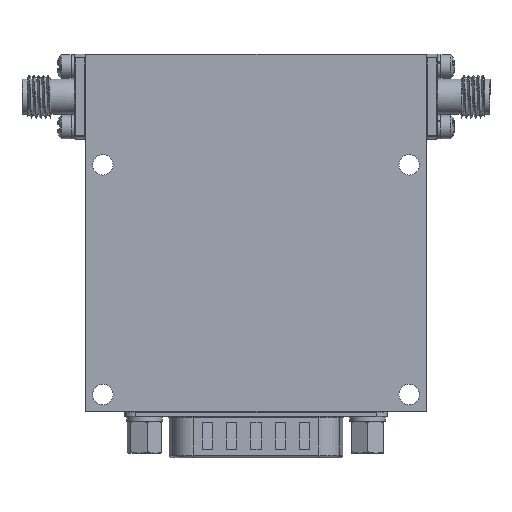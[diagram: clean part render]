
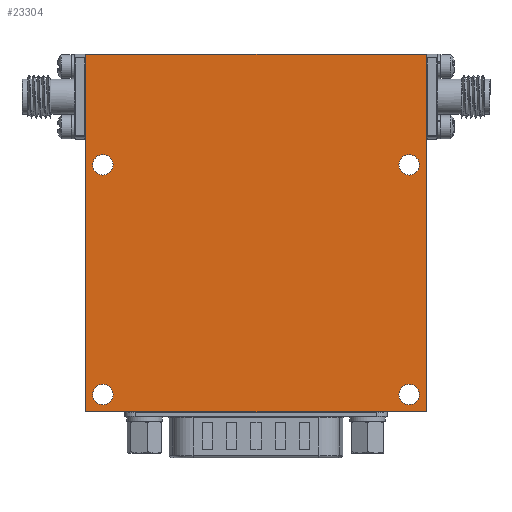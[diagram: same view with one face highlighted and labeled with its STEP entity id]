
A CAD part, front view. The second image highlights one B-rep face of the part: STEP entity #23304.
In plain terms, the highlighted planar face has unit normal (0, -1, 0).
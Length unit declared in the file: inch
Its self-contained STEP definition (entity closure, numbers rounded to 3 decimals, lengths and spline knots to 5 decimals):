
#541 = DIRECTION ( 'NONE',  ( 0., 1., 0. ) ) ;
#969 = VECTOR ( 'NONE', #38814, 39.37008 ) ;
#1223 = CARTESIAN_POINT ( 'NONE',  ( -0.9, 0., -0.95 ) ) ;
#1747 = DIRECTION ( 'NONE',  ( 0., 0., 1. ) ) ;
#1944 = CARTESIAN_POINT ( 'NONE',  ( 0.9, 0., -0.95 ) ) ;
#2295 = FACE_BOUND ( 'NONE', #17054, .T. ) ;
#3096 = ORIENTED_EDGE ( 'NONE', *, *, #38306, .T. ) ;
#3168 = DIRECTION ( 'NONE',  ( 0., 1., 0. ) ) ;
#3214 = CARTESIAN_POINT ( 'NONE',  ( 0., 0., 0. ) ) ;
#4188 = DIRECTION ( 'NONE',  ( 0., 0., 1. ) ) ;
#4549 = AXIS2_PLACEMENT_3D ( 'NONE', #3214, #34537, #24229 ) ;
#4962 = CARTESIAN_POINT ( 'NONE',  ( -1., 0., 1.05 ) ) ;
#6265 = ORIENTED_EDGE ( 'NONE', *, *, #32292, .T. ) ;
#7013 = CARTESIAN_POINT ( 'NONE',  ( -1., 0., -1.05 ) ) ;
#7616 = EDGE_CURVE ( 'NONE', #15040, #25627, #8135, .T. ) ;
#8135 = LINE ( 'NONE', #4962, #26128 ) ;
#8382 = ORIENTED_EDGE ( 'NONE', *, *, #15532, .T. ) ;
#9475 = CARTESIAN_POINT ( 'NONE',  ( -1., 0., 1.05 ) ) ;
#9553 = EDGE_CURVE ( 'NONE', #44248, #15040, #24415, .T. ) ;
#10208 = VERTEX_POINT ( 'NONE', #36827 ) ;
#11144 = VERTEX_POINT ( 'NONE', #35637 ) ;
#12476 = CIRCLE ( 'NONE', #37383, 0.06 ) ;
#13230 = FACE_BOUND ( 'NONE', #29105, .T. ) ;
#13586 = CARTESIAN_POINT ( 'NONE',  ( 0.9, 0., -0.89 ) ) ;
#14363 = CARTESIAN_POINT ( 'NONE',  ( 1., 0., 1.05 ) ) ;
#15040 = VERTEX_POINT ( 'NONE', #39771 ) ;
#15120 = LINE ( 'NONE', #15571, #35953 ) ;
#15532 = EDGE_CURVE ( 'NONE', #29235, #29235, #33544, .T. ) ;
#15571 = CARTESIAN_POINT ( 'NONE',  ( -1., 0., 1.05 ) ) ;
#15860 = DIRECTION ( 'NONE',  ( 0., 1., 0. ) ) ;
#16578 = ORIENTED_EDGE ( 'NONE', *, *, #9553, .F. ) ;
#17054 = EDGE_LOOP ( 'NONE', ( #8382 ) ) ;
#17314 = EDGE_CURVE ( 'NONE', #10208, #44248, #27690, .T. ) ;
#17579 = ORIENTED_EDGE ( 'NONE', *, *, #18283, .T. ) ;
#17773 = ORIENTED_EDGE ( 'NONE', *, *, #17314, .F. ) ;
#18283 = EDGE_CURVE ( 'NONE', #11144, #11144, #12476, .T. ) ;
#18533 = CARTESIAN_POINT ( 'NONE',  ( 1., 0., -1.05 ) ) ;
#18996 = EDGE_CURVE ( 'NONE', #25627, #10208, #15120, .T. ) ;
#19437 = PLANE ( 'NONE',  #4549 ) ;
#21574 = DIRECTION ( 'NONE',  ( 0., 0., 1. ) ) ;
#23013 = CARTESIAN_POINT ( 'NONE',  ( -0.9, 0., -0.89 ) ) ;
#23304 = ADVANCED_FACE ( 'NONE', ( #33653, #13230, #36860, #2295, #23763 ), #19437, .T. ) ;
#23763 = FACE_OUTER_BOUND ( 'NONE', #39241, .T. ) ;
#23950 = CARTESIAN_POINT ( 'NONE',  ( 0.9, 0., 0.4 ) ) ;
#24229 = DIRECTION ( 'NONE',  ( 0., 0., -1. ) ) ;
#24415 = LINE ( 'NONE', #7013, #969 ) ;
#24437 = AXIS2_PLACEMENT_3D ( 'NONE', #1223, #25481, #21574 ) ;
#25481 = DIRECTION ( 'NONE',  ( 0., 1., 0. ) ) ;
#25627 = VERTEX_POINT ( 'NONE', #9475 ) ;
#26128 = VECTOR ( 'NONE', #1747, 39.37008 ) ;
#26339 = EDGE_LOOP ( 'NONE', ( #17579 ) ) ;
#27690 = LINE ( 'NONE', #14363, #33644 ) ;
#27838 = AXIS2_PLACEMENT_3D ( 'NONE', #1944, #15860, #42556 ) ;
#28000 = CARTESIAN_POINT ( 'NONE',  ( -0.9, 0., 0.4 ) ) ;
#28358 = DIRECTION ( 'NONE',  ( 0., 0., -1. ) ) ;
#29105 = EDGE_LOOP ( 'NONE', ( #3096 ) ) ;
#29235 = VERTEX_POINT ( 'NONE', #32910 ) ;
#31050 = DIRECTION ( 'NONE',  ( 0., 0., 1. ) ) ;
#32292 = EDGE_CURVE ( 'NONE', #43836, #43836, #43420, .T. ) ;
#32910 = CARTESIAN_POINT ( 'NONE',  ( -0.9, 0., 0.46 ) ) ;
#33544 = CIRCLE ( 'NONE', #45102, 0.06 ) ;
#33644 = VECTOR ( 'NONE', #28358, 39.37008 ) ;
#33653 = FACE_BOUND ( 'NONE', #38276, .T. ) ;
#34537 = DIRECTION ( 'NONE',  ( 0., -1., 0. ) ) ;
#34784 = ORIENTED_EDGE ( 'NONE', *, *, #7616, .F. ) ;
#35637 = CARTESIAN_POINT ( 'NONE',  ( 0.9, 0., 0.46 ) ) ;
#35953 = VECTOR ( 'NONE', #43716, 39.37008 ) ;
#36827 = CARTESIAN_POINT ( 'NONE',  ( 1., 0., 1.05 ) ) ;
#36860 = FACE_BOUND ( 'NONE', #26339, .T. ) ;
#37383 = AXIS2_PLACEMENT_3D ( 'NONE', #23950, #3168, #31050 ) ;
#38276 = EDGE_LOOP ( 'NONE', ( #6265 ) ) ;
#38306 = EDGE_CURVE ( 'NONE', #38332, #38332, #41681, .T. ) ;
#38332 = VERTEX_POINT ( 'NONE', #13586 ) ;
#38814 = DIRECTION ( 'NONE',  ( -1., 0., 0. ) ) ;
#39241 = EDGE_LOOP ( 'NONE', ( #17773, #43289, #34784, #16578 ) ) ;
#39771 = CARTESIAN_POINT ( 'NONE',  ( -1., 0., -1.05 ) ) ;
#41681 = CIRCLE ( 'NONE', #27838, 0.06 ) ;
#42556 = DIRECTION ( 'NONE',  ( 0., 0., 1. ) ) ;
#43289 = ORIENTED_EDGE ( 'NONE', *, *, #18996, .F. ) ;
#43420 = CIRCLE ( 'NONE', #24437, 0.06 ) ;
#43716 = DIRECTION ( 'NONE',  ( 1., 0., 0. ) ) ;
#43836 = VERTEX_POINT ( 'NONE', #23013 ) ;
#44248 = VERTEX_POINT ( 'NONE', #18533 ) ;
#45102 = AXIS2_PLACEMENT_3D ( 'NONE', #28000, #541, #4188 ) ;
